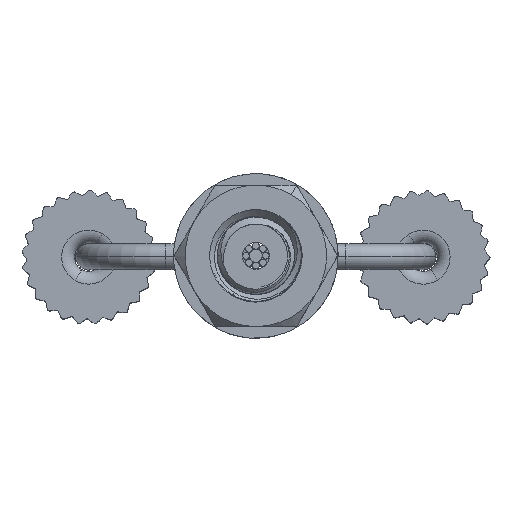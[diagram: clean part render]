
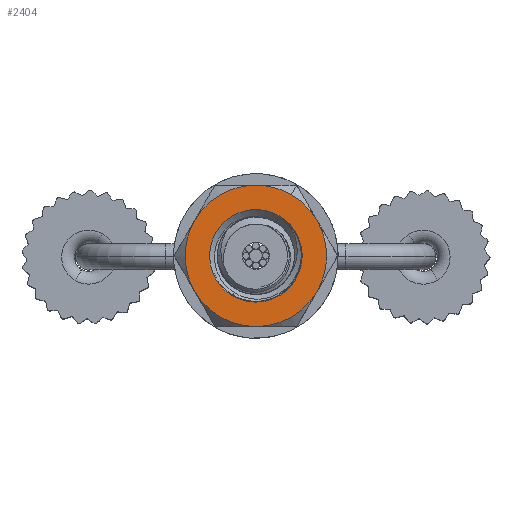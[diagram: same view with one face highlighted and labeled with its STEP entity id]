
A CAD part, top view. The second image highlights one B-rep face of the part: STEP entity #2404.
In plain terms, the highlighted planar face has unit normal (0, 0, 1).
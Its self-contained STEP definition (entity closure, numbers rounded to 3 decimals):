
#268 = VERTEX_POINT ( 'NONE', #1996 ) ;
#544 = CIRCLE ( 'NONE', #25611, 1.8 ) ;
#573 = AXIS2_PLACEMENT_3D ( 'NONE', #6619, #8924, #13890 ) ;
#601 = EDGE_LOOP ( 'NONE', ( #7491, #3001 ) ) ;
#1499 = CARTESIAN_POINT ( 'NONE',  ( 1.8, 0., 2.4 ) ) ;
#1996 = CARTESIAN_POINT ( 'NONE',  ( -2.75, 0., 2.4 ) ) ;
#2030 = EDGE_CURVE ( 'NONE', #17761, #4994, #18247, .T. ) ;
#2173 = DIRECTION ( 'NONE',  ( -1., 0., 0. ) ) ;
#2181 = DIRECTION ( 'NONE',  ( 1., 0., 0. ) ) ;
#2404 = ADVANCED_FACE ( 'NONE', ( #27695, #25109 ), #20639, .T. ) ;
#2484 = ORIENTED_EDGE ( 'NONE', *, *, #6657, .F. ) ;
#2610 = CARTESIAN_POINT ( 'NONE',  ( 0., 0., 2.4 ) ) ;
#2868 = DIRECTION ( 'NONE',  ( 0., 0., -1. ) ) ;
#3001 = ORIENTED_EDGE ( 'NONE', *, *, #13906, .T. ) ;
#3273 = EDGE_CURVE ( 'NONE', #18663, #26781, #16975, .T. ) ;
#3862 = EDGE_CURVE ( 'NONE', #20157, #268, #24487, .T. ) ;
#4123 = ORIENTED_EDGE ( 'NONE', *, *, #15246, .F. ) ;
#4283 = DIRECTION ( 'NONE',  ( 0., 0., -1. ) ) ;
#4496 = CARTESIAN_POINT ( 'NONE',  ( 0., 0., 2.4 ) ) ;
#4798 = AXIS2_PLACEMENT_3D ( 'NONE', #19424, #24223, #5277 ) ;
#4859 = CIRCLE ( 'NONE', #16185, 2.75 ) ;
#4994 = VERTEX_POINT ( 'NONE', #29342 ) ;
#5133 = CARTESIAN_POINT ( 'NONE',  ( 2.382, 1.375, 2.4 ) ) ;
#5277 = DIRECTION ( 'NONE',  ( 1., 0., 0. ) ) ;
#5336 = DIRECTION ( 'NONE',  ( 1., 0., 0. ) ) ;
#5964 = DIRECTION ( 'NONE',  ( 0., 0., -1. ) ) ;
#6619 = CARTESIAN_POINT ( 'NONE',  ( 0., 0., 2.4 ) ) ;
#6657 = EDGE_CURVE ( 'NONE', #29158, #20157, #9420, .T. ) ;
#7470 = DIRECTION ( 'NONE',  ( 1., 0., 0. ) ) ;
#7491 = ORIENTED_EDGE ( 'NONE', *, *, #3273, .T. ) ;
#7771 = ORIENTED_EDGE ( 'NONE', *, *, #15367, .F. ) ;
#8223 = CARTESIAN_POINT ( 'NONE',  ( -2.382, 1.375, 2.4 ) ) ;
#8924 = DIRECTION ( 'NONE',  ( 0., 0., 1. ) ) ;
#8992 = VERTEX_POINT ( 'NONE', #24409 ) ;
#9376 = VERTEX_POINT ( 'NONE', #8223 ) ;
#9420 = CIRCLE ( 'NONE', #12320, 2.75 ) ;
#9730 = CIRCLE ( 'NONE', #18581, 2.75 ) ;
#12285 = DIRECTION ( 'NONE',  ( 1., 0., 0. ) ) ;
#12320 = AXIS2_PLACEMENT_3D ( 'NONE', #21658, #14891, #7470 ) ;
#12330 = ORIENTED_EDGE ( 'NONE', *, *, #24442, .F. ) ;
#12903 = DIRECTION ( 'NONE',  ( 0., 0., -1. ) ) ;
#13890 = DIRECTION ( 'NONE',  ( 1., 0., 0. ) ) ;
#13906 = EDGE_CURVE ( 'NONE', #26781, #18663, #544, .T. ) ;
#13907 = DIRECTION ( 'NONE',  ( 0., 0., -1. ) ) ;
#14891 = DIRECTION ( 'NONE',  ( 0., 0., -1. ) ) ;
#15222 = ORIENTED_EDGE ( 'NONE', *, *, #3862, .F. ) ;
#15246 = EDGE_CURVE ( 'NONE', #268, #9376, #17106, .T. ) ;
#15367 = EDGE_CURVE ( 'NONE', #8992, #17761, #9730, .T. ) ;
#15793 = AXIS2_PLACEMENT_3D ( 'NONE', #4496, #13907, #2181 ) ;
#16185 = AXIS2_PLACEMENT_3D ( 'NONE', #24592, #12903, #5336 ) ;
#16323 = DIRECTION ( 'NONE',  ( 1., 0., 0. ) ) ;
#16975 = CIRCLE ( 'NONE', #19920, 1.8 ) ;
#17106 = CIRCLE ( 'NONE', #28880, 2.75 ) ;
#17512 = CARTESIAN_POINT ( 'NONE',  ( 0., 0., 2.4 ) ) ;
#17761 = VERTEX_POINT ( 'NONE', #5133 ) ;
#18247 = CIRCLE ( 'NONE', #15793, 2.75 ) ;
#18486 = DIRECTION ( 'NONE',  ( 0., 0., -1. ) ) ;
#18581 = AXIS2_PLACEMENT_3D ( 'NONE', #19027, #2868, #12285 ) ;
#18663 = VERTEX_POINT ( 'NONE', #1499 ) ;
#19027 = CARTESIAN_POINT ( 'NONE',  ( 0., 0., 2.4 ) ) ;
#19424 = CARTESIAN_POINT ( 'NONE',  ( 0., 0., 2.4 ) ) ;
#19920 = AXIS2_PLACEMENT_3D ( 'NONE', #21542, #25993, #16323 ) ;
#20121 = DIRECTION ( 'NONE',  ( 1., 0., 0. ) ) ;
#20157 = VERTEX_POINT ( 'NONE', #26751 ) ;
#20639 = PLANE ( 'NONE',  #573 ) ;
#21542 = CARTESIAN_POINT ( 'NONE',  ( 0., 0., 2.4 ) ) ;
#21658 = CARTESIAN_POINT ( 'NONE',  ( 0., 0., 2.4 ) ) ;
#21662 = DIRECTION ( 'NONE',  ( 1., 0., 0. ) ) ;
#22615 = ORIENTED_EDGE ( 'NONE', *, *, #2030, .F. ) ;
#23579 = CARTESIAN_POINT ( 'NONE',  ( -1.8, 0., 2.4 ) ) ;
#24223 = DIRECTION ( 'NONE',  ( 0., 0., -1. ) ) ;
#24409 = CARTESIAN_POINT ( 'NONE',  ( 0., 2.75, 2.4 ) ) ;
#24442 = EDGE_CURVE ( 'NONE', #9376, #8992, #29301, .T. ) ;
#24487 = CIRCLE ( 'NONE', #4798, 2.75 ) ;
#24592 = CARTESIAN_POINT ( 'NONE',  ( 0., 0., 2.4 ) ) ;
#24923 = AXIS2_PLACEMENT_3D ( 'NONE', #2610, #18486, #2173 ) ;
#25109 = FACE_OUTER_BOUND ( 'NONE', #28680, .T. ) ;
#25358 = CARTESIAN_POINT ( 'NONE',  ( 0., 0., 2.4 ) ) ;
#25611 = AXIS2_PLACEMENT_3D ( 'NONE', #17512, #5964, #20121 ) ;
#25993 = DIRECTION ( 'NONE',  ( 0., 0., -1. ) ) ;
#26751 = CARTESIAN_POINT ( 'NONE',  ( -2.382, -1.375, 2.4 ) ) ;
#26781 = VERTEX_POINT ( 'NONE', #23579 ) ;
#27576 = ORIENTED_EDGE ( 'NONE', *, *, #29519, .F. ) ;
#27695 = FACE_BOUND ( 'NONE', #601, .T. ) ;
#27810 = CARTESIAN_POINT ( 'NONE',  ( 0., -2.75, 2.4 ) ) ;
#28680 = EDGE_LOOP ( 'NONE', ( #27576, #22615, #7771, #12330, #4123, #15222, #2484 ) ) ;
#28880 = AXIS2_PLACEMENT_3D ( 'NONE', #25358, #4283, #21662 ) ;
#29158 = VERTEX_POINT ( 'NONE', #27810 ) ;
#29301 = CIRCLE ( 'NONE', #24923, 2.75 ) ;
#29342 = CARTESIAN_POINT ( 'NONE',  ( 2.382, -1.375, 2.4 ) ) ;
#29519 = EDGE_CURVE ( 'NONE', #4994, #29158, #4859, .T. ) ;
